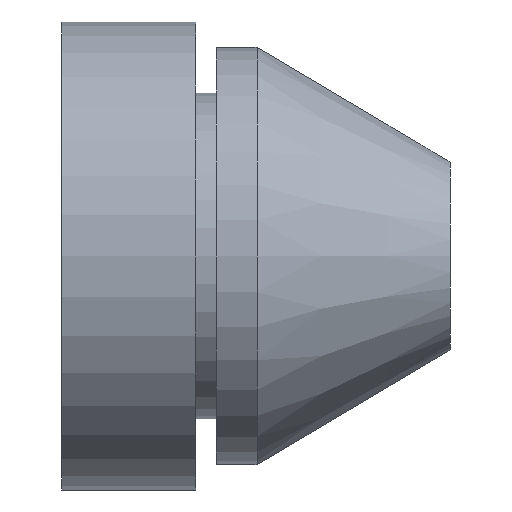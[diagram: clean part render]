
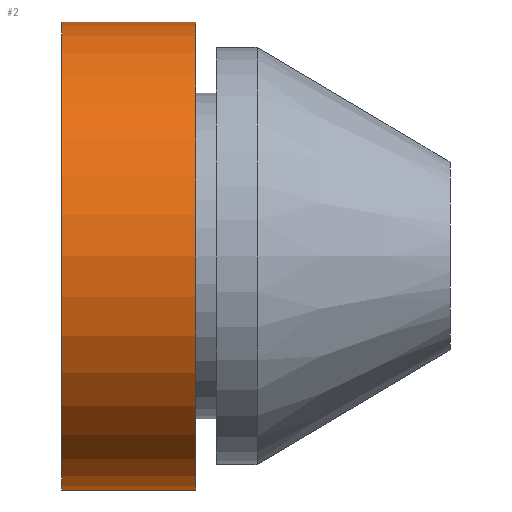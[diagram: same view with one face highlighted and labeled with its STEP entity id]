
A CAD part, left-side view. The second image highlights one B-rep face of the part: STEP entity #2.
In plain terms, the highlighted cylindrical face has radius 11.5 mm (diameter 23 mm), a partial arc.
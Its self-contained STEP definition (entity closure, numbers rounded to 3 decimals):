
#2 = ADVANCED_FACE ( 'NONE', ( #348 ), #345, .T. ) ;
#4 = CARTESIAN_POINT ( 'NONE',  ( 0., 12.5, 11.5 ) ) ;
#15 = CARTESIAN_POINT ( 'NONE',  ( 0., 12.5, -11.5 ) ) ;
#19 = CARTESIAN_POINT ( 'NONE',  ( 0., 19.1, -11.5 ) ) ;
#22 = CARTESIAN_POINT ( 'NONE',  ( 0., 19.1, 11.5 ) ) ;
#50 = AXIS2_PLACEMENT_3D ( 'NONE', #276, #271, #268 ) ;
#51 = AXIS2_PLACEMENT_3D ( 'NONE', #280, #261, #259 ) ;
#65 = DIRECTION ( 'NONE',  ( 0., -1., 0. ) ) ;
#66 = CARTESIAN_POINT ( 'NONE',  ( 0., 0., -11.5 ) ) ;
#67 = DIRECTION ( 'NONE',  ( 0., -1., 0. ) ) ;
#71 = CARTESIAN_POINT ( 'NONE',  ( 0., 0., 11.5 ) ) ;
#91 = CIRCLE ( 'NONE', #51, 11.5 ) ;
#107 = LINE ( 'NONE', #66, #125 ) ;
#114 = VECTOR ( 'NONE', #67, 1000. ) ;
#124 = CIRCLE ( 'NONE', #50, 11.5 ) ;
#125 = VECTOR ( 'NONE', #65, 1000. ) ;
#137 = LINE ( 'NONE', #71, #114 ) ;
#220 = EDGE_CURVE ( 'NONE', #311, #364, #137, .T. ) ;
#221 = EDGE_CURVE ( 'NONE', #295, #294, #107, .T. ) ;
#225 = EDGE_CURVE ( 'NONE', #364, #294, #124, .T. ) ;
#226 = EDGE_CURVE ( 'NONE', #311, #295, #91, .T. ) ;
#234 = AXIS2_PLACEMENT_3D ( 'NONE', #286, #285, #282 ) ;
#259 = DIRECTION ( 'NONE',  ( 0., 0., -1. ) ) ;
#261 = DIRECTION ( 'NONE',  ( 0., -1., 0. ) ) ;
#268 = DIRECTION ( 'NONE',  ( 0., 0., -1. ) ) ;
#271 = DIRECTION ( 'NONE',  ( 0., -1., 0. ) ) ;
#276 = CARTESIAN_POINT ( 'NONE',  ( 0., 12.5, 0. ) ) ;
#280 = CARTESIAN_POINT ( 'NONE',  ( 0., 19.1, 0. ) ) ;
#282 = DIRECTION ( 'NONE',  ( 0., 0., -1. ) ) ;
#285 = DIRECTION ( 'NONE',  ( 0., -1., 0. ) ) ;
#286 = CARTESIAN_POINT ( 'NONE',  ( 0., 0., 0. ) ) ;
#294 = VERTEX_POINT ( 'NONE', #15 ) ;
#295 = VERTEX_POINT ( 'NONE', #19 ) ;
#298 = ORIENTED_EDGE ( 'NONE', *, *, #225, .F. ) ;
#300 = ORIENTED_EDGE ( 'NONE', *, *, #221, .T. ) ;
#301 = ORIENTED_EDGE ( 'NONE', *, *, #220, .F. ) ;
#303 = ORIENTED_EDGE ( 'NONE', *, *, #226, .T. ) ;
#311 = VERTEX_POINT ( 'NONE', #22 ) ;
#313 = EDGE_LOOP ( 'NONE', ( #301, #303, #300, #298 ) ) ;
#345 = CYLINDRICAL_SURFACE ( 'NONE', #234, 11.5 ) ;
#348 = FACE_OUTER_BOUND ( 'NONE', #313, .T. ) ;
#364 = VERTEX_POINT ( 'NONE', #4 ) ;
